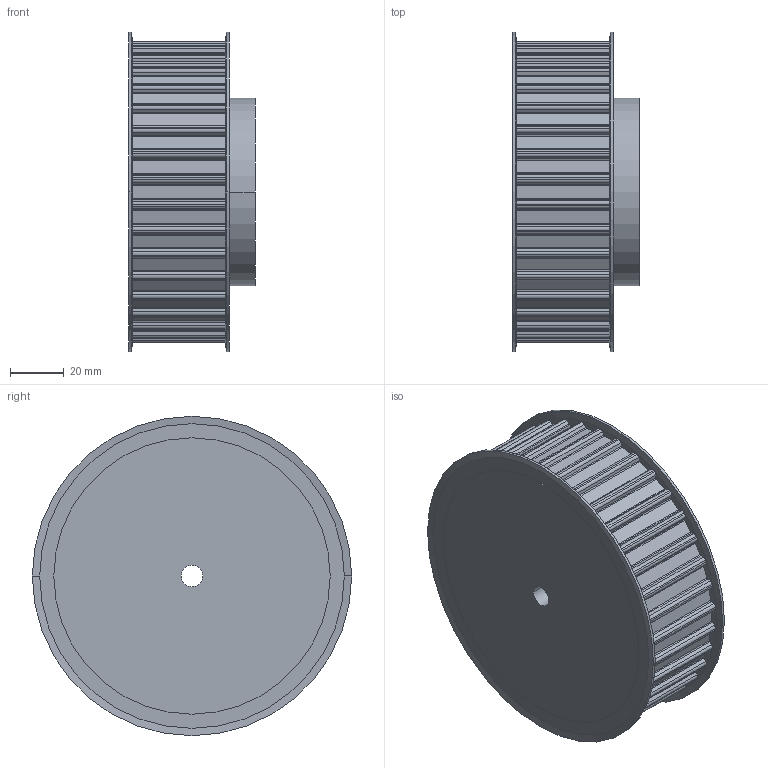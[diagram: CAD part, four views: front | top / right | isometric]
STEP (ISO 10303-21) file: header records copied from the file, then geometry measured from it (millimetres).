
FILE_DESCRIPTION( ( '' ), '1' );
FILE_NAME( 'C:/Users/Stangenbergd/Documents/CAD_Step/1/16843600.stp', '2021-10-19T09:47:29', ( '' ), ( '' ), ' ', ' ', ' ' );
FILE_SCHEMA( ( 'CONFIG_CONTROL_DESIGN' ) );
Length unit declared in the file: millimetre
Products named in the file (1): 1
Bounding box: 47.24 x 119 x 119 mm (x, y, z)
Volume: 388505.7 mm3; surface area: 44907 mm2
Topology: 1 solids, 1 shells, 315 faces, 916 edges, 608 vertices
Faces by surface type: cylinder 192, plane 115, cone 8
Entity records: 10606 total; most frequent: DIRECTION 1940, CARTESIAN_POINT 1840, ORIENTED_EDGE 1832, EDGE_CURVE 916, AXIS2_PLACEMENT_3D 708, VERTEX_POINT 608, LINE 524, VECTOR 524
